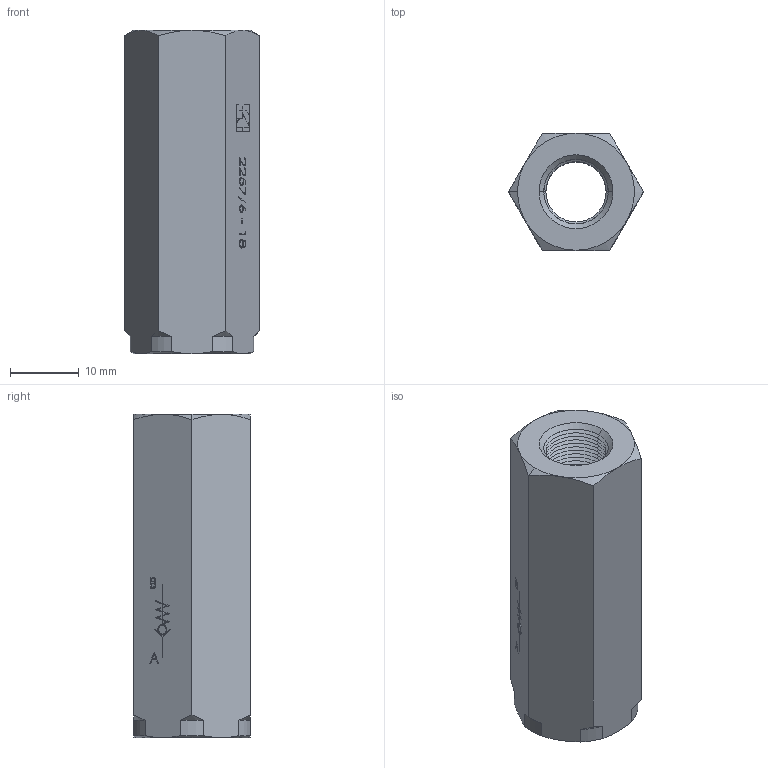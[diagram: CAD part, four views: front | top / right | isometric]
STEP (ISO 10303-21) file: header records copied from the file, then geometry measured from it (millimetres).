
FILE_DESCRIPTION (( 'STEP AP214' ), '1' );
FILE_NAME ('2257-6-18.STEP', '2015-04-08T20:21:29', ( '' ), ( '' ), 'SwSTEP 2.0', 'SolidWorks 2014', '' );
FILE_SCHEMA (( 'AUTOMOTIVE_DESIGN' ));
Length unit declared in the file: millimetre
Products named in the file (1): 2257-6-18
Bounding box: 19.63 x 17 x 47 mm (x, y, z)
Surface area: 3632.8 mm2 (no closed solid volume)
Topology: 0 solids, 12 shells, 318 faces, 854 edges, 550 vertices
Faces by surface type: plane 156, cone 91, bspline 52, cylinder 19
Entity records: 16382 total; most frequent: CARTESIAN_POINT 5295, ORIENTED_EDGE 1594, DIRECTION 1392, EDGE_CURVE 854, VECTOR 558, LINE 558, VERTEX_POINT 550, AXIS2_PLACEMENT_3D 417
